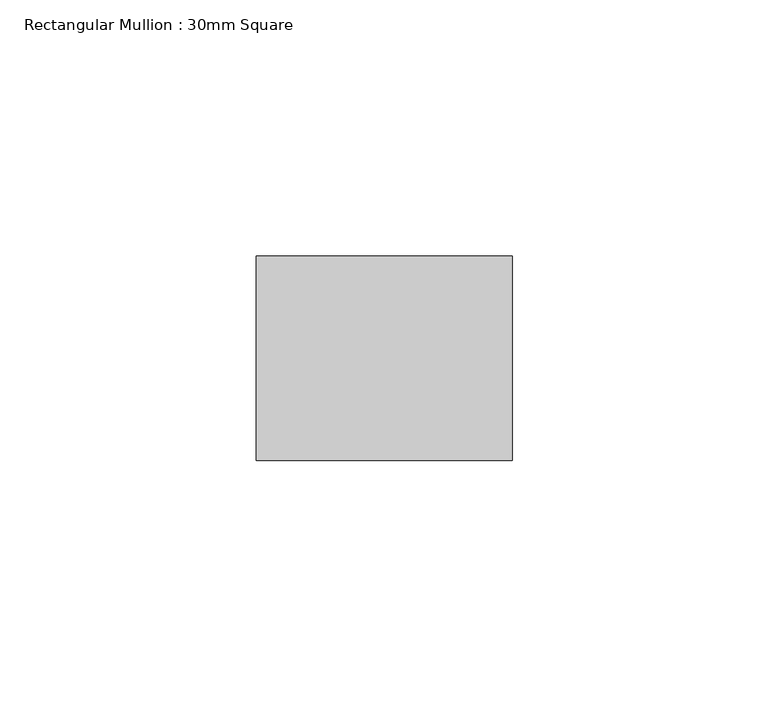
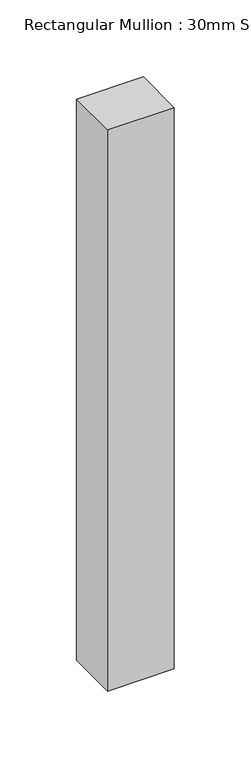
"""IFC4 building model written with IfcOpenShell, lengths in millimetres: member geometry, Rectangular Mullion : 30mm Square."""

from ifc_helpers import new_model, si_unit, frame, origin, place, context, project, spatial, polyline, outline, extrude, source, transform, mapped, element, save


def rectangular_mullion_30mm_square_0af94d56(model_context):
    return source(origin(), model_context, "Body", "SweptSolid", [
        extrude(outline(polyline([(25.0, 20.0), (25.0, -20.0), (-25.0, -20.0), (-25.0, 20.0), (25.0, 20.0)])), frame((0.0, 0.0, -445.0), z_axis=(0.0, 0.0, 1.0), x_axis=(1.0, 0.0, 0.0)), (0.0, 0.0, 1.0), 445.0),
    ])


if __name__ == "__main__":
    model = new_model("IFC4")
    model_context = context("Model", 3, world=origin())
    ifc_project = project(units=[si_unit("LENGTHUNIT", "METRE", prefix="MILLI")], contexts=[model_context])
    site = spatial("IfcSite", under=ifc_project)
    building = spatial("IfcBuilding", under=site)
    placement = place(None, origin())
    rectangular_mullion_30mm_square_shape = rectangular_mullion_30mm_square_0af94d56(model_context)
    element("IfcMember", 1, ObjectType="Rectangular Mullion : 30mm Square", at=placement, inside=building, context=model_context, shape_type="MappedRepresentation", body=[
        mapped(rectangular_mullion_30mm_square_shape, transform((0.0, 0.0, 0.0), x_axis=(1.0, 0.0, 0.0), y_axis=(0.0, 1.0, 0.0), z_axis=(0.0, 0.0, 1.0))),
    ])
    save(model, "model.ifc")
